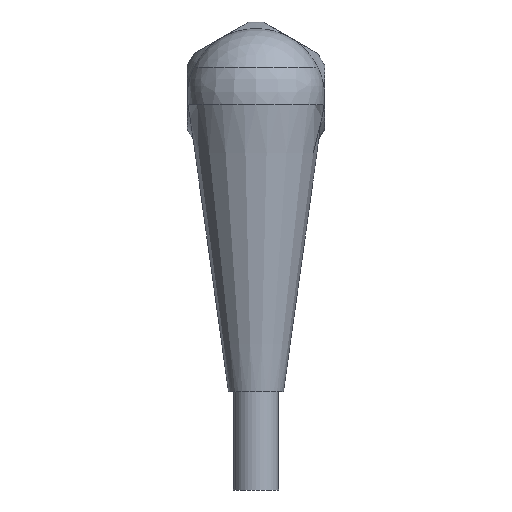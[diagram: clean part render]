
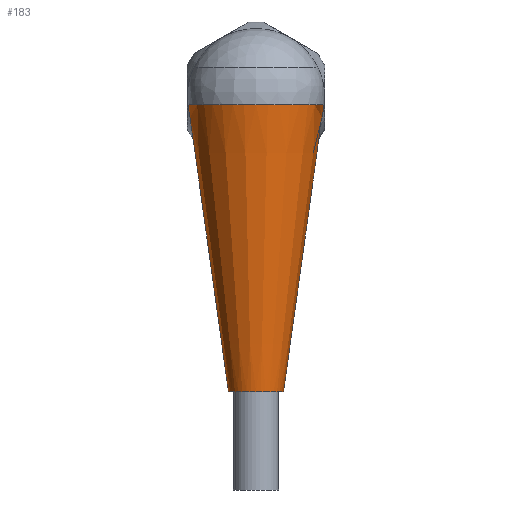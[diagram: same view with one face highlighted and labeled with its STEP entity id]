
A CAD part, left-side view. The second image highlights one B-rep face of the part: STEP entity #183.
In plain terms, the highlighted conical face has half-angle 7.97 degrees and reference radius 7 mm.
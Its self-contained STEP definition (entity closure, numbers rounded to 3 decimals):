
#183 = ADVANCED_FACE( '', ( #417, #418 ), #419, .T. );
#417 = FACE_OUTER_BOUND( '', #720, .T. );
#418 = FACE_BOUND( '', #721, .T. );
#419 = CONICAL_SURFACE( '', #722, 7., 0.139 );
#720 = EDGE_LOOP( '', ( #1304, #1305, #1306, #1307 ) );
#721 = EDGE_LOOP( '', ( #1308 ) );
#722 = AXIS2_PLACEMENT_3D( '', #1309, #1310, #1311 );
#1304 = ORIENTED_EDGE( '', *, *, #1672, .T. );
#1305 = ORIENTED_EDGE( '', *, *, #1767, .T. );
#1306 = ORIENTED_EDGE( '', *, *, #1768, .T. );
#1307 = ORIENTED_EDGE( '', *, *, #1632, .T. );
#1308 = ORIENTED_EDGE( '', *, *, #1687, .F. );
#1309 = CARTESIAN_POINT( '', ( -25.2, 0., 0. ) );
#1310 = DIRECTION( '', ( 0., 0., 1. ) );
#1311 = DIRECTION( '', ( -1., 0., 0. ) );
#1632 = EDGE_CURVE( '', #1900, #1898, #1901, .T. );
#1672 = EDGE_CURVE( '', #1898, #1964, #1967, .T. );
#1687 = EDGE_CURVE( '', #1990, #1990, #1991, .T. );
#1767 = EDGE_CURVE( '', #1964, #2111, #2112, .T. );
#1768 = EDGE_CURVE( '', #2111, #1900, #2113, .T. );
#1898 = VERTEX_POINT( '', #2340 );
#1900 = VERTEX_POINT( '', #2342 );
#1901 = LINE( '', #2343, #2344 );
#1964 = VERTEX_POINT( '', #2480 );
#1967 = CIRCLE( '', #2483, 6.896 );
#1990 = VERTEX_POINT( '', #2511 );
#1991 = CIRCLE( '', #2512, 2.8 );
#2111 = VERTEX_POINT( '', #2823 );
#2112 = LINE( '', #2824, #2825 );
#2113 = B_SPLINE_CURVE_WITH_KNOTS( '', 3, ( #2826, #2827, #2828, #2829, #2830, #2831, #2832, #2833, #2834, #2835, #2836, #2837, #2838, #2839, #2840, #2841, #2842, #2843, #2844, #2845, #2846, #2847, #2848, #2849, #2850, #2851, #2852, #2853, #2854, #2855, #2856, #2857, #2858, #2859, #2860, #2861, #2862, #2863, #2864 ), .UNSPECIFIED., .F., .F., ( 4, 1, 1, 1, 1, 1, 1, 1, 1, 1, 1, 1, 1, 1, 1, 1, 1, 1, 1, 1, 1, 1, 1, 1, 1, 1, 1, 1, 1, 1, 1, 1, 1, 1, 1, 1, 4 ), ( 0., 0.003, 0.006, 0.01, 0.014, 0.018, 0.022, 0.026, 0.031, 0.045, 0.063, 0.072, 0.093, 0.125, 0.173, 0.214, 0.25, 0.325, 0.39, 0.447, 0.5, 0.553, 0.61, 0.675, 0.75, 0.806, 0.875, 0.907, 0.928, 0.937, 0.955, 0.968, 0.976, 0.983, 0.989, 0.995, 1. ), .UNSPECIFIED. );
#2340 = CARTESIAN_POINT( '', ( -25.2, -6.896, -0.741 ) );
#2342 = CARTESIAN_POINT( '', ( -25.2, -6.713, -2.052 ) );
#2343 = CARTESIAN_POINT( '', ( -25.2, 0., -50. ) );
#2344 = VECTOR( '', #3123, 1000. );
#2480 = CARTESIAN_POINT( '', ( -25.2, 6.896, -0.741 ) );
#2483 = AXIS2_PLACEMENT_3D( '', #3194, #3195, #3196 );
#2511 = CARTESIAN_POINT( '', ( -22.4, 0., -30. ) );
#2512 = AXIS2_PLACEMENT_3D( '', #3220, #3221, #3222 );
#2823 = CARTESIAN_POINT( '', ( -25.2, 6.713, -2.052 ) );
#2824 = CARTESIAN_POINT( '', ( -25.2, 0., -50. ) );
#2825 = VECTOR( '', #3355, 1000. );
#2826 = CARTESIAN_POINT( '', ( -25.2, 6.713, -2.052 ) );
#2827 = CARTESIAN_POINT( '', ( -25.175, 6.713, -2.053 ) );
#2828 = CARTESIAN_POINT( '', ( -25.124, 6.712, -2.055 ) );
#2829 = CARTESIAN_POINT( '', ( -25.045, 6.709, -2.07 ) );
#2830 = CARTESIAN_POINT( '', ( -24.964, 6.703, -2.093 ) );
#2831 = CARTESIAN_POINT( '', ( -24.881, 6.695, -2.127 ) );
#2832 = CARTESIAN_POINT( '', ( -24.795, 6.684, -2.17 ) );
#2833 = CARTESIAN_POINT( '', ( -24.707, 6.671, -2.222 ) );
#2834 = CARTESIAN_POINT( '', ( -24.616, 6.655, -2.284 ) );
#2835 = CARTESIAN_POINT( '', ( -24.469, 6.625, -2.396 ) );
#2836 = CARTESIAN_POINT( '', ( -24.256, 6.572, -2.589 ) );
#2837 = CARTESIAN_POINT( '', ( -24.029, 6.502, -2.817 ) );
#2838 = CARTESIAN_POINT( '', ( -23.778, 6.412, -3.097 ) );
#2839 = CARTESIAN_POINT( '', ( -23.455, 6.282, -3.463 ) );
#2840 = CARTESIAN_POINT( '', ( -22.96, 6.041, -4.055 ) );
#2841 = CARTESIAN_POINT( '', ( -22.392, 5.692, -4.765 ) );
#2842 = CARTESIAN_POINT( '', ( -21.834, 5.259, -5.483 ) );
#2843 = CARTESIAN_POINT( '', ( -21.19, 4.65, -6.33 ) );
#2844 = CARTESIAN_POINT( '', ( -20.504, 3.796, -7.238 ) );
#2845 = CARTESIAN_POINT( '', ( -19.879, 2.591, -8.082 ) );
#2846 = CARTESIAN_POINT( '', ( -19.506, 1.317, -8.601 ) );
#2847 = CARTESIAN_POINT( '', ( -19.381, 0.003, -8.781 ) );
#2848 = CARTESIAN_POINT( '', ( -19.504, -1.311, -8.602 ) );
#2849 = CARTESIAN_POINT( '', ( -19.877, -2.587, -8.084 ) );
#2850 = CARTESIAN_POINT( '', ( -20.502, -3.793, -7.24 ) );
#2851 = CARTESIAN_POINT( '', ( -21.267, -4.746, -6.228 ) );
#2852 = CARTESIAN_POINT( '', ( -22.123, -5.514, -5.104 ) );
#2853 = CARTESIAN_POINT( '', ( -22.854, -5.989, -4.182 ) );
#2854 = CARTESIAN_POINT( '', ( -23.454, -6.282, -3.465 ) );
#2855 = CARTESIAN_POINT( '', ( -23.775, -6.411, -3.1 ) );
#2856 = CARTESIAN_POINT( '', ( -24.026, -6.501, -2.821 ) );
#2857 = CARTESIAN_POINT( '', ( -24.252, -6.571, -2.593 ) );
#2858 = CARTESIAN_POINT( '', ( -24.482, -6.628, -2.384 ) );
#2859 = CARTESIAN_POINT( '', ( -24.663, -6.664, -2.249 ) );
#2860 = CARTESIAN_POINT( '', ( -24.806, -6.686, -2.162 ) );
#2861 = CARTESIAN_POINT( '', ( -24.943, -6.702, -2.1 ) );
#2862 = CARTESIAN_POINT( '', ( -25.073, -6.711, -2.06 ) );
#2863 = CARTESIAN_POINT( '', ( -25.159, -6.712, -2.054 ) );
#2864 = CARTESIAN_POINT( '', ( -25.2, -6.713, -2.052 ) );
#3123 = DIRECTION( '', ( 0., -0.139, 0.99 ) );
#3194 = CARTESIAN_POINT( '', ( -25.2, 0., -0.741 ) );
#3195 = DIRECTION( '', ( 0., 0., -1. ) );
#3196 = DIRECTION( '', ( -1., 0., 0. ) );
#3220 = CARTESIAN_POINT( '', ( -25.2, 0., -30. ) );
#3221 = DIRECTION( '', ( 0., 0., -1. ) );
#3222 = DIRECTION( '', ( 1., 0., 0. ) );
#3355 = DIRECTION( '', ( 0., -0.139, -0.99 ) );
